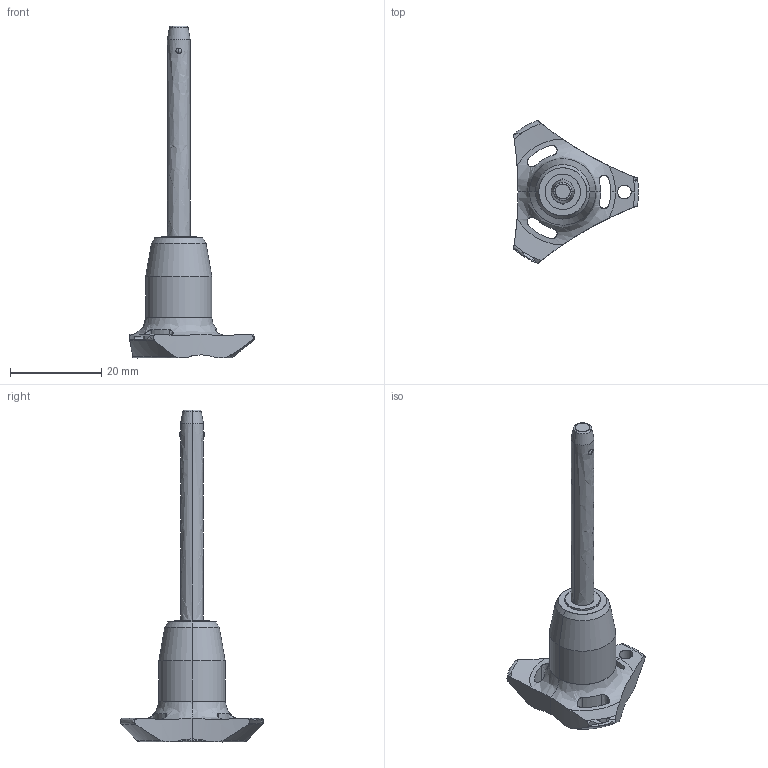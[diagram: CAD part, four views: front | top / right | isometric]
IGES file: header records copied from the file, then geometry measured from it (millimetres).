
Start section: SolidWorks IGES file using analytic representation for surfaces
Global section: file name: C:\Users\ianosborn\Desktop\QR1714_v2\QR1714_v2_20251112_IGES\QR1714.M05-040-S.igs; native system: SolidWorks 2019; preprocessor: SolidWorks 2019; author: IanOsborn; date: 251112.095535; units: millimetre
Bounding box: 27.4 x 31.31 x 72.7 mm (x, y, z)
Surface area: 3136.7 mm2 (no closed solid volume)
Topology: 0 solids, 0 shells, 66 faces, 1227 edges, 1208 vertices
Faces by surface type: revolution 50, bspline 16
